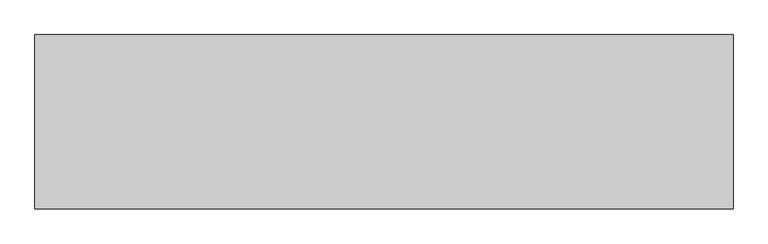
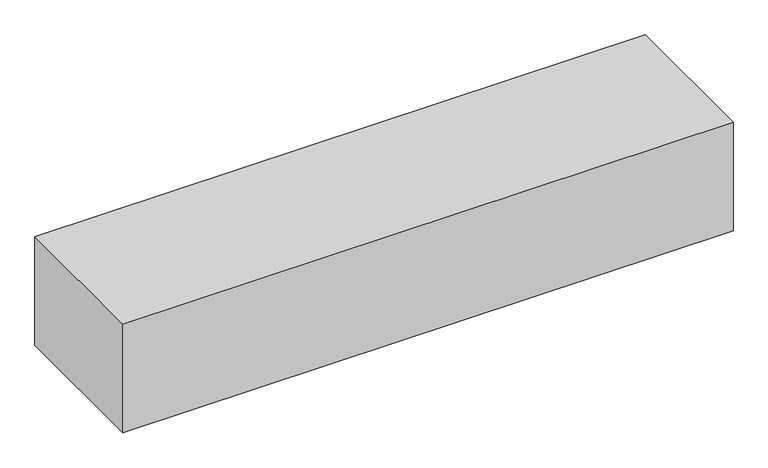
"""IFC4 building model written with IfcOpenShell, lengths in millimetres: proxy geometry, 営_屋上基礎_簡易 : 1600*400*H300."""

from ifc_helpers import new_model, si_unit, origin, origin_with_axes, place, context, project, spatial, polyline, outline, extrude, source, transform, mapped, element, save


def generic_models_01440799(model_context):
    return source(origin(), model_context, "Body", "SweptSolid", [
        extrude(outline(polyline([(800.0, 200.0), (800.0, -200.0), (-800.0, -200.0), (-800.0, 200.0), (800.0, 200.0)])), origin_with_axes(), (0.0, 0.0, 1.0), 300.0),
    ])


if __name__ == "__main__":
    model = new_model("IFC4")
    model_context = context("Model", 3, world=origin())
    ifc_project = project(units=[si_unit("LENGTHUNIT", "METRE", prefix="MILLI")], contexts=[model_context])
    site = spatial("IfcSite", under=ifc_project)
    building = spatial("IfcBuilding", under=site)
    placement = place(None, origin())
    generic_models_shape = generic_models_01440799(model_context)
    element("IfcBuildingElementProxy", 1, Name="営_屋上基礎_簡易 : 1600*400*H300", ObjectType="営_屋上基礎_簡易 : 1600*400*H300", at=placement, inside=building, context=model_context, shape_type="MappedRepresentation", body=[
        mapped(generic_models_shape, transform((0.0, 0.0, 0.0), x_axis=(1.0, 0.0, 0.0), y_axis=(0.0, 1.0, 0.0), z_axis=(0.0, 0.0, 1.0))),
    ])
    save(model, "model.ifc")
